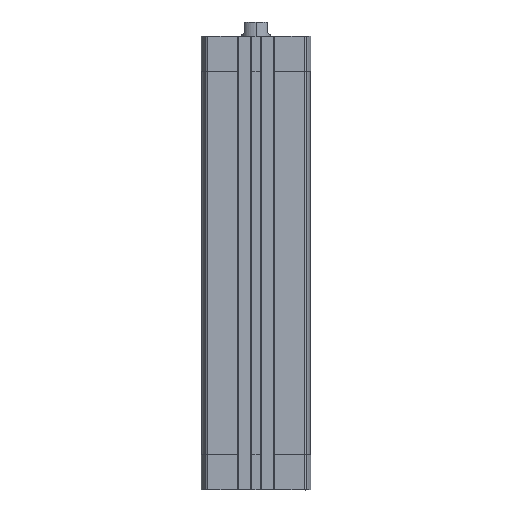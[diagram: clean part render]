
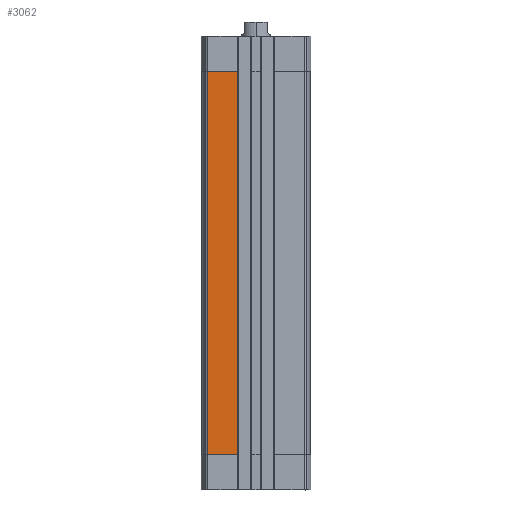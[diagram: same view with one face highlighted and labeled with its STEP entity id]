
A CAD part, left-side view. The second image highlights one B-rep face of the part: STEP entity #3062.
In plain terms, the highlighted planar face has unit normal (-1, 0, 0).
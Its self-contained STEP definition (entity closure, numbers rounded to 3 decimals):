
#146 = VECTOR ( 'NONE', #8656, 1000. ) ;
#358 = LINE ( 'NONE', #2795, #13232 ) ;
#2381 = VERTEX_POINT ( 'NONE', #8657 ) ;
#2795 = CARTESIAN_POINT ( 'NONE',  ( -23.25, 20.543, -179. ) ) ;
#3062 = ADVANCED_FACE ( 'NONE', ( #9750 ), #3482, .T. ) ;
#3349 = VECTOR ( 'NONE', #5407, 1000. ) ;
#3482 = PLANE ( 'NONE',  #15334 ) ;
#3555 = EDGE_CURVE ( 'NONE', #2381, #7377, #358, .T. ) ;
#3647 = LINE ( 'NONE', #12582, #6927 ) ;
#4102 = DIRECTION ( 'NONE',  ( 0., 0., -1. ) ) ;
#4261 = EDGE_CURVE ( 'NONE', #6342, #7667, #13035, .T. ) ;
#4698 = DIRECTION ( 'NONE',  ( -1., 0., 0. ) ) ;
#5407 = DIRECTION ( 'NONE',  ( 0., 0., -1. ) ) ;
#6342 = VERTEX_POINT ( 'NONE', #8495 ) ;
#6927 = VECTOR ( 'NONE', #4102, 1000. ) ;
#7363 = EDGE_LOOP ( 'NONE', ( #8897, #12036, #11233, #11635 ) ) ;
#7377 = VERTEX_POINT ( 'NONE', #11178 ) ;
#7667 = VERTEX_POINT ( 'NONE', #9439 ) ;
#8495 = CARTESIAN_POINT ( 'NONE',  ( -23.25, 7.95, -15. ) ) ;
#8656 = DIRECTION ( 'NONE',  ( 0., 1., 0. ) ) ;
#8657 = CARTESIAN_POINT ( 'NONE',  ( -23.25, 20.543, -179. ) ) ;
#8808 = EDGE_CURVE ( 'NONE', #6342, #7377, #3647, .T. ) ;
#8897 = ORIENTED_EDGE ( 'NONE', *, *, #3555, .T. ) ;
#9104 = LINE ( 'NONE', #13822, #3349 ) ;
#9439 = CARTESIAN_POINT ( 'NONE',  ( -23.25, 20.543, -15. ) ) ;
#9750 = FACE_OUTER_BOUND ( 'NONE', #7363, .T. ) ;
#10789 = CARTESIAN_POINT ( 'NONE',  ( -23.25, 20.543, -179. ) ) ;
#11178 = CARTESIAN_POINT ( 'NONE',  ( -23.25, 7.95, -179. ) ) ;
#11233 = ORIENTED_EDGE ( 'NONE', *, *, #4261, .T. ) ;
#11321 = DIRECTION ( 'NONE',  ( 0., -1., 0. ) ) ;
#11635 = ORIENTED_EDGE ( 'NONE', *, *, #11759, .T. ) ;
#11759 = EDGE_CURVE ( 'NONE', #7667, #2381, #9104, .T. ) ;
#12036 = ORIENTED_EDGE ( 'NONE', *, *, #8808, .F. ) ;
#12582 = CARTESIAN_POINT ( 'NONE',  ( -23.25, 7.95, -179. ) ) ;
#13035 = LINE ( 'NONE', #13411, #146 ) ;
#13135 = DIRECTION ( 'NONE',  ( 0., 0., 1. ) ) ;
#13232 = VECTOR ( 'NONE', #11321, 1000. ) ;
#13411 = CARTESIAN_POINT ( 'NONE',  ( -23.25, 0., -15. ) ) ;
#13822 = CARTESIAN_POINT ( 'NONE',  ( -23.25, 20.543, -179. ) ) ;
#15334 = AXIS2_PLACEMENT_3D ( 'NONE', #10789, #4698, #13135 ) ;
